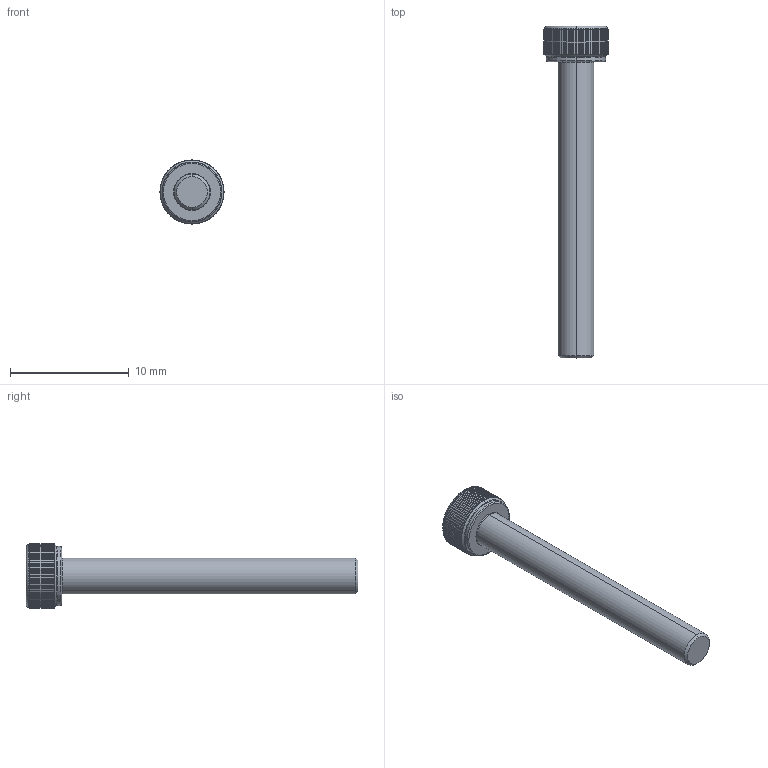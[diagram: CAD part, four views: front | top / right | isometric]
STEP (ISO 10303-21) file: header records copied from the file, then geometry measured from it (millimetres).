
FILE_DESCRIPTION (( 'STEP AP203' ), '1' );
FILE_NAME ('LGDT-304-M3x25.STEP', '2026-08-08T10:21:52', ( '' ), ( '' ), 'SwSTEP 2.0', 'SolidWorks 2020', '' );
FILE_SCHEMA (( 'CONFIG_CONTROL_DESIGN' ));
Length unit declared in the file: millimetre
Products named in the file (1): LGDT-304-M3x25
Bounding box: 5.4 x 28 x 5.4 mm (x, y, z)
Volume: 234.5 mm3; surface area: 339.3 mm2
Topology: 1 solids, 1 shells, 204 faces, 576 edges, 376 vertices
Faces by surface type: cylinder 175, cone 11, plane 10, torus 8
Entity records: 10019 total; most frequent: CARTESIAN_POINT 4860, ORIENTED_EDGE 1152, DIRECTION 988, EDGE_CURVE 576, AXIS2_PLACEMENT_3D 398, VERTEX_POINT 376, EDGE_LOOP 206, ADVANCED_FACE 204
